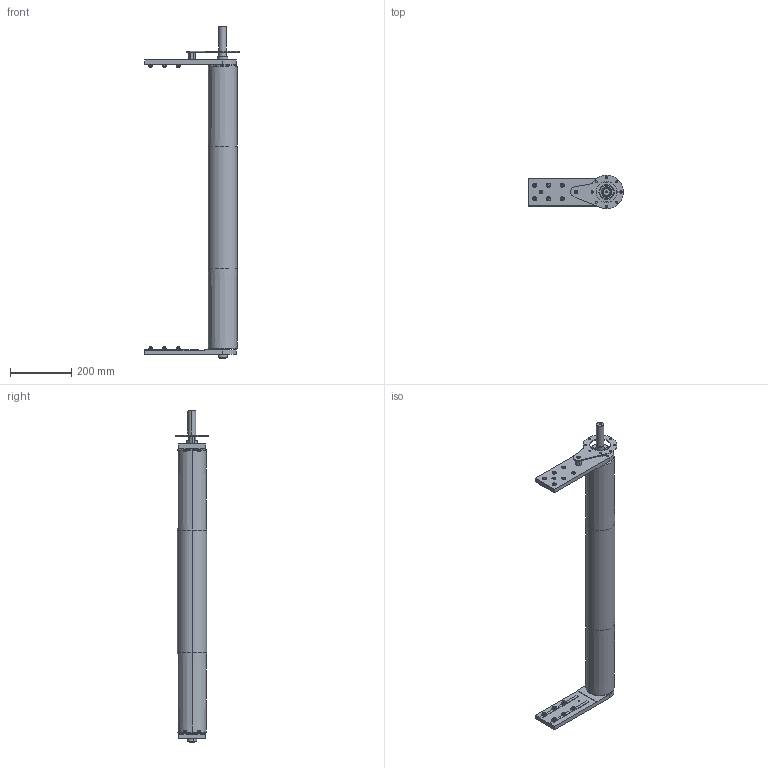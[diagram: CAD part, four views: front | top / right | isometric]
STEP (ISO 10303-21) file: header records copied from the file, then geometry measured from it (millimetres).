
FILE_DESCRIPTION (( 'STEP AP203' ), '1' );
FILE_NAME ('084.095.KD.49.900.STEP', '2015-11-12T10:01:26', ( '' ), ( '' ), 'SwSTEP 2.0', 'SolidWorks 2012', '' );
FILE_SCHEMA (( 'CONFIG_CONTROL_DESIGN' ));
Length unit declared in the file: millimetre
Products named in the file (1): 084.095.KD.49.900
Bounding box: 310 x 110 x 1084.5 mm (x, y, z)
Surface area: 476755.7 mm2 (no closed solid volume)
Topology: 0 solids, 52 shells, 520 faces, 1617 edges, 1130 vertices
Faces by surface type: plane 293, cylinder 131, torus 52, cone 36, bspline 6, sphere 2
Entity records: 19092 total; most frequent: CARTESIAN_POINT 4631, DIRECTION 3062, ORIENTED_EDGE 2678, EDGE_CURVE 1613, VERTEX_POINT 1128, AXIS2_PLACEMENT_3D 1121, VECTOR 820, LINE 820
